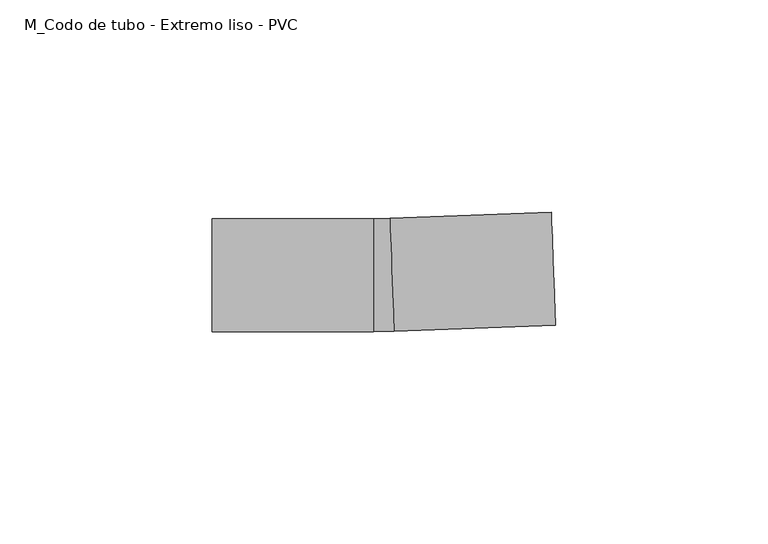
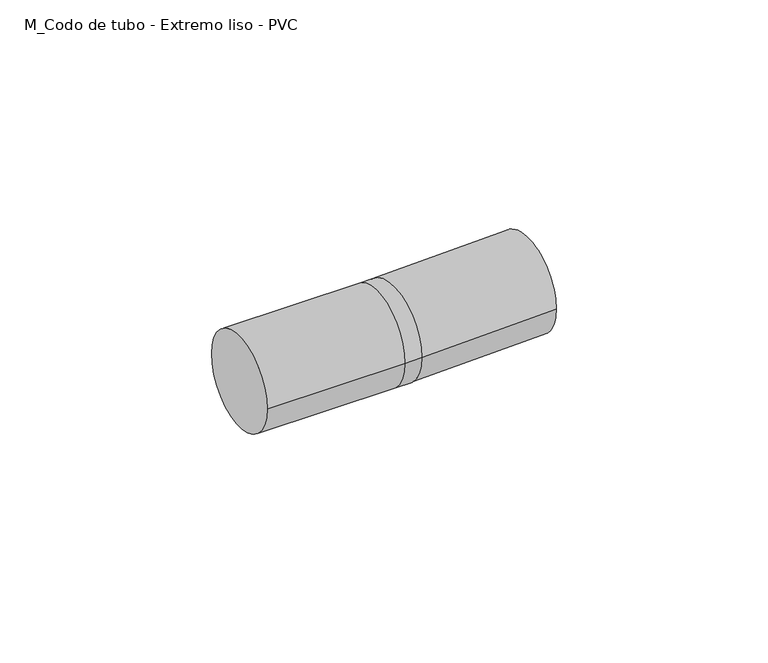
"""IFC4 building model written with IfcOpenShell, lengths in millimetres: cable carrier fitting geometry, M_Codo de tubo - Extremo liso - PVC : CODO ILUMINACION."""

from ifc_helpers import new_model, si_unit, point, frame, origin, place, context, project, spatial, circle_curve, ellipse_curve, trimmed, source, transform, mapped, element, save
from ifc_brep_helpers import plane_surface, cylinder_surface, revolved_surface, advanced_brep


def m_codo_de_tubo_extremo_liso_pvc_4ea2b15a(model_context):
    return source(origin(), model_context, "Body", "AdvancedBrep", [
        advanced_brep(
        [(-40.2669034, -13.335, 0.0), (-40.2669034, 13.335, 0.0), (-2.1669034, -13.335, 0.0), (-2.1669034, 13.335, 0.0), (1.6599172, 13.407549, 0.0), (2.6707755, -13.2432871, 0.0), (40.7433985, -11.7992039, 0.0), (39.7325402, 14.8516322, 0.0)],
        [
            (0, 1, circle_curve(frame((-40.2669034, 0.0, 0.0), z_axis=(-1.0, 0.0, 0.0), x_axis=(0.0, 1.0, 0.0)), 13.335)),
            (1, 0, circle_curve(frame((-40.2669034, 0.0, 0.0), z_axis=(-1.0, 0.0, 0.0), x_axis=(0.0, 1.0, 0.0)), 13.335)),
            (0, 2),
            (2, 3, circle_curve(frame((-2.1669034, 0.0, 0.0), z_axis=(-1.0, 0.0, 0.0), x_axis=(0.0, 1.0, 0.0)), 13.335)),
            (3, 1),
            (3, 2, circle_curve(frame((-2.1669034, 0.0, 0.0), z_axis=(-1.0, 0.0, 0.0), x_axis=(0.0, 1.0, 0.0)), 13.335)),
            (4, 3, circle_curve(frame((-2.1669034, 114.3, 0.0), z_axis=(0.0, 0.0, -1.0), x_axis=(0.0, -1.0, 0.0)), 100.965)),
            (2, 5, circle_curve(frame((-2.1669034, 114.3, 0.0), z_axis=(0.0, 0.0, 1.0), x_axis=(0.0, -1.0, 0.0)), 127.635)),
            (5, 4, circle_curve(frame((2.1653463, 0.0821309, 0.0), z_axis=(-0.9992814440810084, -0.037902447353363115, 0.0), x_axis=(-0.037902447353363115, 0.9992814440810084, 0.0)), 13.335)),
            (4, 5, circle_curve(frame((2.1653463, 0.0821309, 0.0), z_axis=(-0.9992814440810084, -0.037902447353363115, 0.0), x_axis=(-0.037902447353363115, 0.9992814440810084, 0.0)), 13.335)),
            (6, 7, circle_curve(frame((40.2379694, 1.5262142, 0.0), z_axis=(0.9992814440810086, 0.037902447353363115, 0.0), x_axis=(-0.03790244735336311, 0.9992814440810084, 0.0)), 13.335)),
            (7, 6, circle_curve(frame((40.2379694, 1.5262142, 0.0), z_axis=(0.9992814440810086, 0.037902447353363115, 0.0), x_axis=(-0.03790244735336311, 0.9992814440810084, 0.0)), 13.335)),
            (5, 6),
            (7, 4),
        ],
        [
            plane_surface(frame((-40.2669034, 0.0, 0.0), z_axis=(-1.0, 0.0, 0.0), x_axis=(0.0, 0.0, 1.0))),
            cylinder_surface(frame((-40.2669034, 0.0, 0.0), z_axis=(-1.0, 0.0, 0.0), x_axis=(0.0, 1.0, 0.0)), 13.335),
            revolved_surface(trimmed(ellipse_curve(frame((-2.1669034, 0.0, 0.0), z_axis=(-1.0, 0.0, 0.0), x_axis=(0.0, 1.0, 0.0)), 13.335, 13.335), [point((-2.1669034, -13.335, 0.0))], [point((-2.1669034, 13.335, 0.0))], True, "CARTESIAN"), (-2.1669034, 114.3, 0.0), (0.0, 0.0, 1.0)),
            revolved_surface(trimmed(ellipse_curve(frame((-2.1669034, 0.0, 0.0), z_axis=(-1.0, 0.0, 0.0), x_axis=(0.0, 1.0, 0.0)), 13.335, 13.335), [point((-2.1669034, 13.335, 0.0))], [point((-2.1669034, -13.335, 0.0))], True, "CARTESIAN"), (-2.1669034, 114.3, 0.0), (0.0, 0.0, 1.0)),
            plane_surface(frame((40.2379694, 1.5262142, 0.0), z_axis=(0.9992814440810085, 0.03790244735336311, 0.0), x_axis=(0.0, 0.0, 1.0))),
            cylinder_surface(frame((2.1653463, 0.0821309, 0.0), z_axis=(-0.9992814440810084, -0.03790244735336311, 0.0), x_axis=(-0.03790244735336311, 0.9992814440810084, 0.0)), 13.335),
        ],
        [
            (0, [[1, 2]]),
            (1, [[-1, 3, 4, 5]]),
            (1, [[-2, -5, 6, -3]]),
            (2, [[7, -4, 8, 9]]),
            (3, [[-8, -6, -7, 10]]),
            (4, [[11, 12]]),
            (5, [[-9, 13, -12, 14]]),
            (5, [[-10, -14, -11, -13]]),
        ],
    ),
    ])


if __name__ == "__main__":
    model = new_model("IFC4")
    model_context = context("Model", 3, world=origin())
    ifc_project = project(units=[si_unit("LENGTHUNIT", "METRE", prefix="MILLI")], contexts=[model_context])
    site = spatial("IfcSite", under=ifc_project)
    building = spatial("IfcBuilding", under=site)
    placement = place(None, origin())
    m_codo_de_tubo_extremo_liso_pvc_shape = m_codo_de_tubo_extremo_liso_pvc_4ea2b15a(model_context)
    element("IfcCableCarrierFitting", 1, ObjectType="M_Codo de tubo - Extremo liso - PVC : CODO ILUMINACION", at=placement, inside=building, context=model_context, shape_type="MappedRepresentation", body=[
        mapped(m_codo_de_tubo_extremo_liso_pvc_shape, transform((0.0, 0.0, 0.0), x_axis=(1.0, 0.0, 0.0), y_axis=(0.0, 1.0, 0.0), z_axis=(0.0, 0.0, 1.0))),
    ])
    save(model, "model.ifc")
